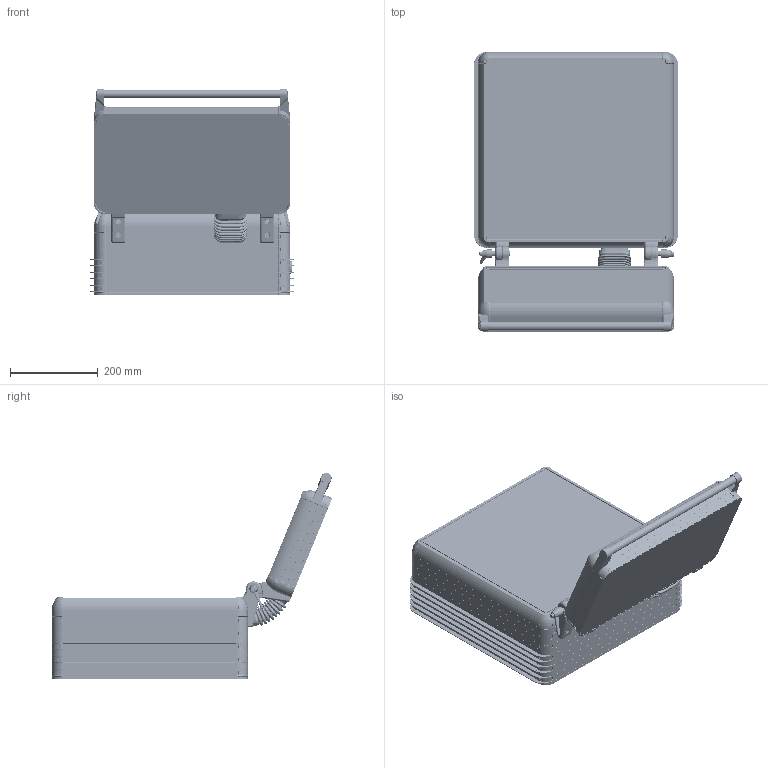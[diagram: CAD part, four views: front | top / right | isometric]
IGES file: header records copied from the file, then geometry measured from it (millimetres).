
Start section: SolidWorks IGES file using analytic representation for surfaces
Global section: file name: D:\KLAVYE\KLV 9091\9091 datalar\9091-6009.IGS; native system: SolidWorks 2022; preprocessor: SolidWorks 2022; author: User; date: 220509.115551; units: millimetre
Bounding box: 465.16 x 639.65 x 470.83 mm (x, y, z)
Surface area: 3372979.4 mm2 (no closed solid volume)
Topology: 0 solids, 0 shells, 20604 faces, 166145 edges, 165230 vertices
Faces by surface type: bspline 13635, revolution 6969
